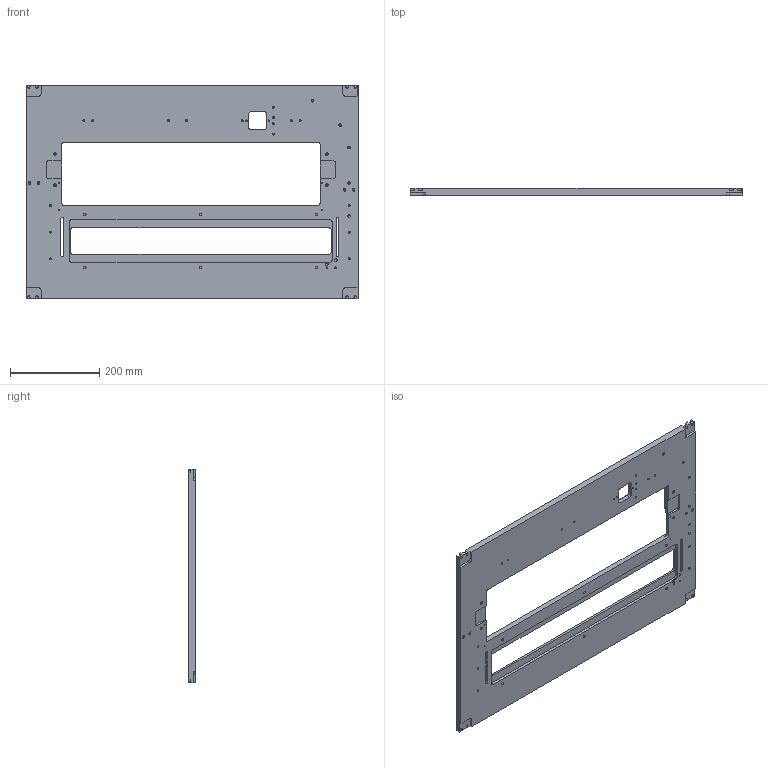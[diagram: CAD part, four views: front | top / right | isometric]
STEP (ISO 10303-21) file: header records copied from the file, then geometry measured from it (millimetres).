
FILE_DESCRIPTION(('STEP AP203'), '1');
FILE_NAME('眐珆1801.01.08.00.001-1 - 咍嚦 賧蕻 櫡謤鍒膱', '', ('UNSPECIFIED'), ('UNSPECIFIED'), 'C3D Converter', 'C3D Toolkit', '');
FILE_SCHEMA(('CONFIG_CONTROL_DESIGN'));
Length unit declared in the file: millimetre
Products named in the file (1): ТППФ1801.01.08.00.001-1
Bounding box: 745 x 15 x 480 mm (x, y, z)
Volume: 3163764 mm3; surface area: 564953.6 mm2
Topology: 1 solids, 1 shells, 300 faces, 786 edges, 496 vertices
Faces by surface type: cylinder 114, plane 110, cone 76
Full cylindrical faces by diameter (mm): 2.459 x6, 3.242 x19, 4.134 x12, 5.5 x6, 6 x11, 10 x6
Entity records: 10824 total; most frequent: DIRECTION 1502, CARTESIAN_POINT 1393, ORIENTED_EDGE 1254, EDGE_CURVE 627, AXIS2_PLACEMENT_3D 574, EDGE_LOOP 492, VERTEX_POINT 465, LINE 354
